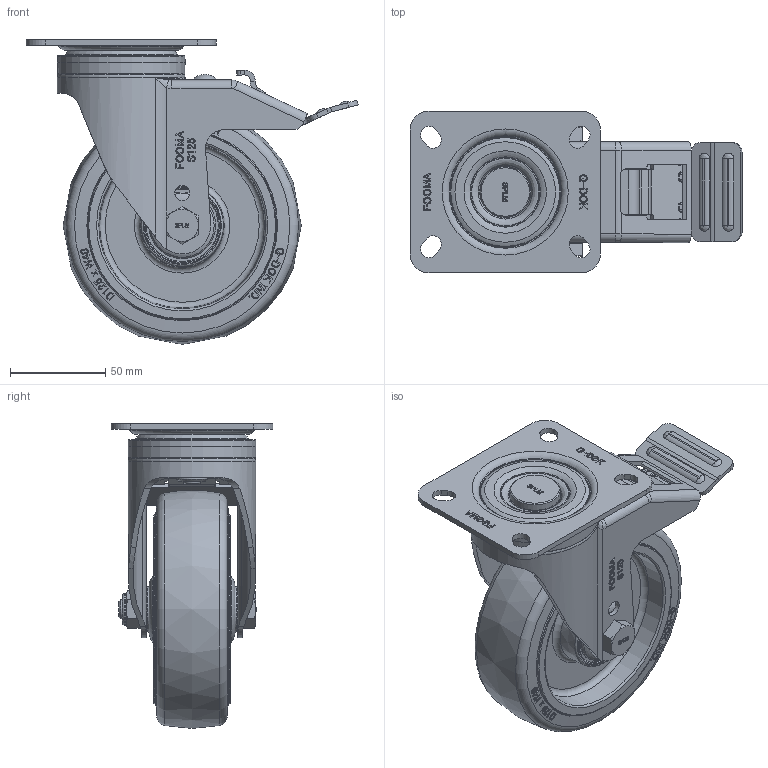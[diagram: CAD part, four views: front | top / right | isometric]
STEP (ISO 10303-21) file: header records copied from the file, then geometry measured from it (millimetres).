
FILE_DESCRIPTION(/* description */ (''),/* implementation_level */ '2;1');
FILE_NAME(/* name */ '\\192.168.10.38\지덕공유\1.기술연구소\2.연구개발 진행중\98.스테인레스캐스터 개발건_2023.10.26\제품설계\3D\홈페이지용\SPLM-125-BSF-HRD-PEU.stp',/* time_stamp */ '2025-02-19T17:36:58+09:00',/* author */ ('admin'),/* organization */ ('지덕산업'),/* preprocessor_version */ 'ST-DEVELOPER v18.1',/* originating_system */ 'Autodesk Inventor 2021',/* authorisation */ '');
FILE_SCHEMA (('CONFIG_CONTROL_DESIGN'));
Products named in the file (1): SPLM-125-BSF-HRD-PEU
Bounding box: 174.29 x 85 x 160 mm (x, y, z)
Volume: 479498.1 mm3; surface area: 111681.7 mm2
Topology: 1 solids, 1 shells, 1632 faces, 4310 edges, 2778 vertices
Faces by surface type: plane 702, bspline 522, cylinder 200, cone 123, torus 76, sphere 9
Full cylindrical faces by diameter (mm): 6 x1, 8 x2, 9 x1, 10 x2, 11 x1, 12 x1, 16 x2, 16.5 x1, 26.6 x1, 30 x1, 40.105 x1, 40.971 x1, 54 x1, 67 x1
Entity records: 55473 total; most frequent: CARTESIAN_POINT 19726, ORIENTED_EDGE 8596, DIRECTION 5642, EDGE_CURVE 4298, VERTEX_POINT 2778, LINE 1980, VECTOR 1980, AXIS2_PLACEMENT_3D 1831
